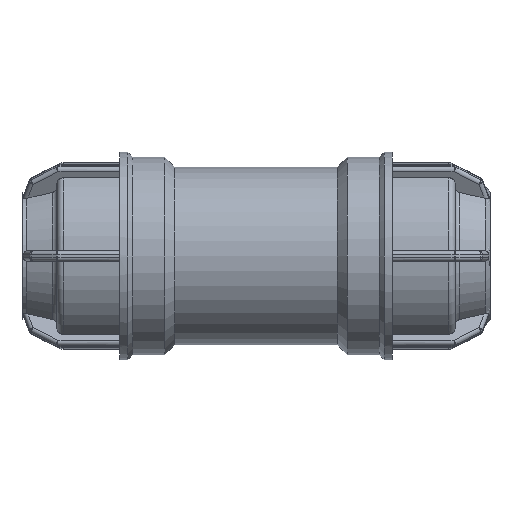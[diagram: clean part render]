
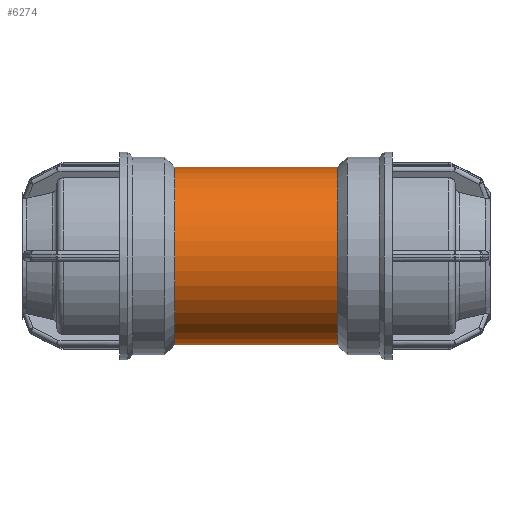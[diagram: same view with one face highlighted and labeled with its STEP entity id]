
A CAD part, front view. The second image highlights one B-rep face of the part: STEP entity #6274.
In plain terms, the highlighted cylindrical face has radius 45.36 mm (diameter 90.72 mm), a full revolution.
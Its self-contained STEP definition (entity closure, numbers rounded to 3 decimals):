
#1030=CIRCLE('',#6293,45.36);
#1197=CIRCLE('',#6659,45.36);
#1418=FACE_BOUND('',#2451,.T.);
#1419=FACE_BOUND('',#2452,.T.);
#1430=B_SPLINE_CURVE_WITH_KNOTS('',3,(#8922,#8923,#8924,#8925,#8926,#8927,
#8928,#8929,#8930,#8931,#8932,#8933,#8934,#8935,#8936,#8937,#8938,#8939,
#8940,#8941,#8942,#8943,#8944,#8945,#8946,#8947,#8948,#8949,#8950,#8951,
#8952,#8953,#8954,#8955,#8956,#8957,#8958,#8959,#8960,#8961,#8962,#8963,
#8964,#8965,#8966,#8967,#8968,#8969,#8970,#8971,#8972,#8973,#8974,#8975,
#8976,#8977,#8978,#8979,#8980,#8981,#8982,#8983,#8984,#8985,#8986,#8987),
 .UNSPECIFIED.,.T.,.F.,(4,2,2,2,2,2,2,2,2,2,2,2,2,2,2,2,2,2,2,2,2,2,2,2,
2,2,2,2,2,2,2,2,4),(0.,0.555,1.11,1.665,
2.22,2.77,3.321,3.871,4.422,
4.972,5.523,6.073,6.624,7.178,
7.733,8.288,8.843,9.398,9.953,
10.508,11.063,11.613,12.164,12.714,
13.265,13.815,14.366,14.916,15.467,
16.022,16.577,17.131,17.686),
 .UNSPECIFIED.);
#2012=FACE_OUTER_BOUND('',#2450,.T.);
#2450=EDGE_LOOP('',(#5728));
#2451=EDGE_LOOP('',(#5729));
#2452=EDGE_LOOP('',(#5730));
#2477=VERTEX_POINT('',#8921);
#2479=VERTEX_POINT('',#8991);
#2742=VERTEX_POINT('',#10476);
#3017=EDGE_CURVE('',#2477,#2477,#1430,.T.);
#3019=EDGE_CURVE('',#2479,#2479,#1030,.T.);
#3468=EDGE_CURVE('',#2742,#2742,#1197,.T.);
#5728=ORIENTED_EDGE('',*,*,#3019,.T.);
#5729=ORIENTED_EDGE('',*,*,#3017,.T.);
#5730=ORIENTED_EDGE('',*,*,#3468,.F.);
#5869=CYLINDRICAL_SURFACE('',#7025,45.36);
#6274=ADVANCED_FACE('',(#2012,#1418,#1419),#5869,.T.);
#6293=AXIS2_PLACEMENT_3D('',#8992,#7055,#7056);
#6659=AXIS2_PLACEMENT_3D('',#10477,#7967,#7968);
#7025=AXIS2_PLACEMENT_3D('',#11972,#8879,#8880);
#7055=DIRECTION('center_axis',(1.,0.,0.));
#7056=DIRECTION('ref_axis',(0.,0.,-1.));
#7967=DIRECTION('center_axis',(1.,0.,0.));
#7968=DIRECTION('ref_axis',(0.,0.,-1.));
#8879=DIRECTION('center_axis',(1.,0.,0.));
#8880=DIRECTION('ref_axis',(0.,1.,0.));
#8921=CARTESIAN_POINT('',(0.,35.409,-28.35));
#8922=CARTESIAN_POINT('Ctrl Pts',(0.,35.409,-28.35));
#8923=CARTESIAN_POINT('Ctrl Pts',(1.85,35.409,-28.35));
#8924=CARTESIAN_POINT('Ctrl Pts',(3.735,35.559,-28.166));
#8925=CARTESIAN_POINT('Ctrl Pts',(7.442,36.136,-27.421));
#8926=CARTESIAN_POINT('Ctrl Pts',(9.263,36.563,-26.86));
#8927=CARTESIAN_POINT('Ctrl Pts',(12.729,37.591,-25.401));
#8928=CARTESIAN_POINT('Ctrl Pts',(14.377,38.191,-24.503));
#8929=CARTESIAN_POINT('Ctrl Pts',(17.418,39.437,-22.443));
#8930=CARTESIAN_POINT('Ctrl Pts',(18.811,40.081,-21.282));
#8931=CARTESIAN_POINT('Ctrl Pts',(21.272,41.294,-18.821));
#8932=CARTESIAN_POINT('Ctrl Pts',(22.432,41.908,-17.433));
#8933=CARTESIAN_POINT('Ctrl Pts',(24.495,43.047,-14.391));
#8934=CARTESIAN_POINT('Ctrl Pts',(25.398,43.572,-12.736));
#8935=CARTESIAN_POINT('Ctrl Pts',(26.863,44.442,-9.256));
#8936=CARTESIAN_POINT('Ctrl Pts',(27.425,44.787,-7.427));
#8937=CARTESIAN_POINT('Ctrl Pts',(28.169,45.246,-3.717));
#8938=CARTESIAN_POINT('Ctrl Pts',(28.35,45.36,-1.835));
#8939=CARTESIAN_POINT('Ctrl Pts',(28.35,45.36,1.835));
#8940=CARTESIAN_POINT('Ctrl Pts',(28.169,45.246,3.717));
#8941=CARTESIAN_POINT('Ctrl Pts',(27.425,44.787,7.427));
#8942=CARTESIAN_POINT('Ctrl Pts',(26.863,44.442,9.256));
#8943=CARTESIAN_POINT('Ctrl Pts',(25.398,43.572,12.736));
#8944=CARTESIAN_POINT('Ctrl Pts',(24.495,43.047,14.391));
#8945=CARTESIAN_POINT('Ctrl Pts',(22.432,41.908,17.433));
#8946=CARTESIAN_POINT('Ctrl Pts',(21.272,41.294,18.821));
#8947=CARTESIAN_POINT('Ctrl Pts',(18.811,40.081,21.282));
#8948=CARTESIAN_POINT('Ctrl Pts',(17.418,39.437,22.443));
#8949=CARTESIAN_POINT('Ctrl Pts',(14.377,38.191,24.503));
#8950=CARTESIAN_POINT('Ctrl Pts',(12.729,37.591,25.401));
#8951=CARTESIAN_POINT('Ctrl Pts',(9.263,36.563,26.86));
#8952=CARTESIAN_POINT('Ctrl Pts',(7.442,36.136,27.421));
#8953=CARTESIAN_POINT('Ctrl Pts',(3.735,35.559,28.166));
#8954=CARTESIAN_POINT('Ctrl Pts',(1.85,35.409,28.35));
#8955=CARTESIAN_POINT('Ctrl Pts',(-1.85,35.409,28.35));
#8956=CARTESIAN_POINT('Ctrl Pts',(-3.735,35.559,28.166));
#8957=CARTESIAN_POINT('Ctrl Pts',(-7.442,36.136,27.421));
#8958=CARTESIAN_POINT('Ctrl Pts',(-9.263,36.563,26.86));
#8959=CARTESIAN_POINT('Ctrl Pts',(-12.729,37.591,25.401));
#8960=CARTESIAN_POINT('Ctrl Pts',(-14.377,38.191,24.503));
#8961=CARTESIAN_POINT('Ctrl Pts',(-17.418,39.437,22.443));
#8962=CARTESIAN_POINT('Ctrl Pts',(-18.811,40.081,21.282));
#8963=CARTESIAN_POINT('Ctrl Pts',(-21.272,41.294,18.821));
#8964=CARTESIAN_POINT('Ctrl Pts',(-22.432,41.908,17.433));
#8965=CARTESIAN_POINT('Ctrl Pts',(-24.495,43.047,14.391));
#8966=CARTESIAN_POINT('Ctrl Pts',(-25.398,43.572,12.736));
#8967=CARTESIAN_POINT('Ctrl Pts',(-26.863,44.442,9.256));
#8968=CARTESIAN_POINT('Ctrl Pts',(-27.425,44.787,7.427));
#8969=CARTESIAN_POINT('Ctrl Pts',(-28.169,45.246,3.717));
#8970=CARTESIAN_POINT('Ctrl Pts',(-28.35,45.36,1.835));
#8971=CARTESIAN_POINT('Ctrl Pts',(-28.35,45.36,-1.835));
#8972=CARTESIAN_POINT('Ctrl Pts',(-28.169,45.246,-3.717));
#8973=CARTESIAN_POINT('Ctrl Pts',(-27.425,44.787,-7.427));
#8974=CARTESIAN_POINT('Ctrl Pts',(-26.863,44.442,-9.256));
#8975=CARTESIAN_POINT('Ctrl Pts',(-25.398,43.572,-12.736));
#8976=CARTESIAN_POINT('Ctrl Pts',(-24.495,43.047,-14.391));
#8977=CARTESIAN_POINT('Ctrl Pts',(-22.432,41.908,-17.433));
#8978=CARTESIAN_POINT('Ctrl Pts',(-21.272,41.294,-18.821));
#8979=CARTESIAN_POINT('Ctrl Pts',(-18.811,40.081,-21.282));
#8980=CARTESIAN_POINT('Ctrl Pts',(-17.418,39.437,-22.443));
#8981=CARTESIAN_POINT('Ctrl Pts',(-14.377,38.191,-24.503));
#8982=CARTESIAN_POINT('Ctrl Pts',(-12.729,37.591,-25.401));
#8983=CARTESIAN_POINT('Ctrl Pts',(-9.263,36.563,-26.86));
#8984=CARTESIAN_POINT('Ctrl Pts',(-7.442,36.136,-27.421));
#8985=CARTESIAN_POINT('Ctrl Pts',(-3.735,35.559,-28.166));
#8986=CARTESIAN_POINT('Ctrl Pts',(-1.85,35.409,-28.35));
#8987=CARTESIAN_POINT('Ctrl Pts',(0.,35.409,
-28.35));
#8991=CARTESIAN_POINT('',(-41.6,45.36,0.));
#8992=CARTESIAN_POINT('Origin',(-41.6,0.,0.));
#10476=CARTESIAN_POINT('',(41.6,45.36,0.));
#10477=CARTESIAN_POINT('Origin',(41.6,0.,0.));
#11972=CARTESIAN_POINT('Origin',(20.8,0.,0.));
